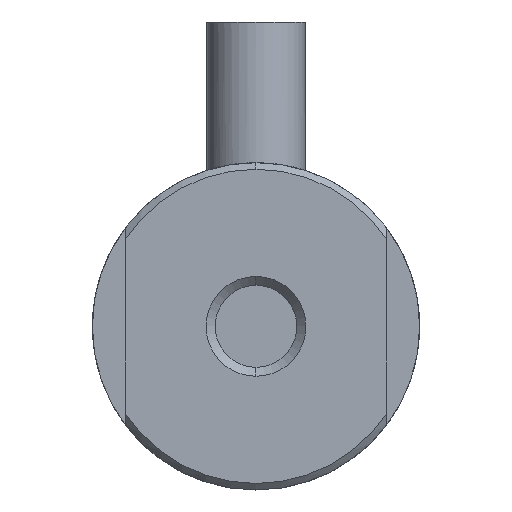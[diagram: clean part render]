
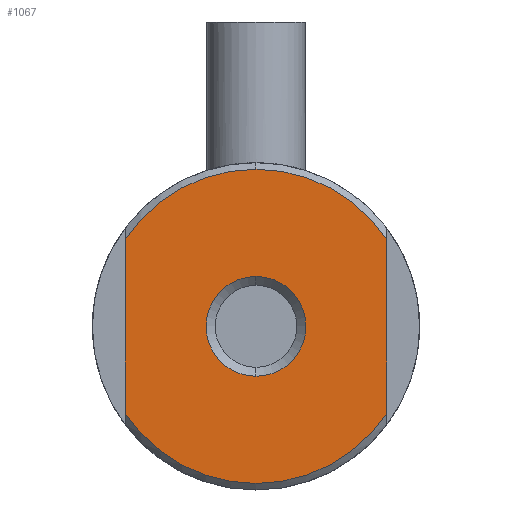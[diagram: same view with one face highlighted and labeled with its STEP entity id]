
A CAD part, front view. The second image highlights one B-rep face of the part: STEP entity #1067.
In plain terms, the highlighted planar face has unit normal (0, -1, 0).
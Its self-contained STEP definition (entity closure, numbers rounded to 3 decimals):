
#7 = EDGE_LOOP ( 'NONE', ( #1491, #1925, #1463, #1442, #135 ) ) ;
#23 = VERTEX_POINT ( 'NONE', #934 ) ;
#54 = CARTESIAN_POINT ( 'NONE',  ( 15.221, -12.067, 22.247 ) ) ;
#99 = EDGE_CURVE ( 'NONE', #1246, #1884, #338, .T. ) ;
#106 = CARTESIAN_POINT ( 'NONE',  ( 11.221, -12.067, 24.9 ) ) ;
#120 = DIRECTION ( 'NONE',  ( 0., 1., 0. ) ) ;
#135 = ORIENTED_EDGE ( 'NONE', *, *, #1857, .T. ) ;
#188 = DIRECTION ( 'NONE',  ( 0., -1., 0. ) ) ;
#296 = CARTESIAN_POINT ( 'NONE',  ( 7.221, -12.067, 27.9 ) ) ;
#315 = AXIS2_PLACEMENT_3D ( 'NONE', #479, #656, #631 ) ;
#327 = CIRCLE ( 'NONE', #371, 4.8 ) ;
#338 = CIRCLE ( 'NONE', #315, 1.525 ) ;
#371 = AXIS2_PLACEMENT_3D ( 'NONE', #384, #1679, #1369 ) ;
#384 = CARTESIAN_POINT ( 'NONE',  ( 11.221, -12.067, 24.9 ) ) ;
#410 = DIRECTION ( 'NONE',  ( 0., -1., 0. ) ) ;
#457 = CIRCLE ( 'NONE', #1638, 4.8 ) ;
#459 = CARTESIAN_POINT ( 'NONE',  ( 7.221, -12.067, 27.553 ) ) ;
#464 = CARTESIAN_POINT ( 'NONE',  ( 11.221, -12.067, 24.9 ) ) ;
#479 = CARTESIAN_POINT ( 'NONE',  ( 11.221, -12.067, 24.9 ) ) ;
#486 = EDGE_CURVE ( 'NONE', #1884, #1246, #811, .T. ) ;
#491 = CIRCLE ( 'NONE', #1846, 4.8 ) ;
#608 = VECTOR ( 'NONE', #1698, 1000. ) ;
#631 = DIRECTION ( 'NONE',  ( 0., 0., -1. ) ) ;
#656 = DIRECTION ( 'NONE',  ( 0., -1., 0. ) ) ;
#679 = CARTESIAN_POINT ( 'NONE',  ( 15.221, -12.067, 27.553 ) ) ;
#682 = FACE_BOUND ( 'NONE', #801, .T. ) ;
#703 = DIRECTION ( 'NONE',  ( 0., 0., 1. ) ) ;
#715 = VERTEX_POINT ( 'NONE', #459 ) ;
#729 = AXIS2_PLACEMENT_3D ( 'NONE', #464, #120, #1064 ) ;
#734 = DIRECTION ( 'NONE',  ( 0., 0., -1. ) ) ;
#749 = EDGE_CURVE ( 'NONE', #23, #715, #1051, .T. ) ;
#766 = VERTEX_POINT ( 'NONE', #679 ) ;
#801 = EDGE_LOOP ( 'NONE', ( #1619, #845 ) ) ;
#811 = CIRCLE ( 'NONE', #1875, 1.525 ) ;
#845 = ORIENTED_EDGE ( 'NONE', *, *, #486, .F. ) ;
#846 = CARTESIAN_POINT ( 'NONE',  ( 11.221, -12.067, 24.9 ) ) ;
#853 = FACE_OUTER_BOUND ( 'NONE', #7, .T. ) ;
#934 = CARTESIAN_POINT ( 'NONE',  ( 7.221, -12.067, 22.247 ) ) ;
#1015 = CARTESIAN_POINT ( 'NONE',  ( 15.221, -12.067, 27.9 ) ) ;
#1051 = LINE ( 'NONE', #296, #608 ) ;
#1064 = DIRECTION ( 'NONE',  ( 0., 0., 1. ) ) ;
#1067 = ADVANCED_FACE ( 'NONE', ( #682, #853 ), #1352, .F. ) ;
#1140 = EDGE_CURVE ( 'NONE', #1188, #715, #491, .T. ) ;
#1172 = VERTEX_POINT ( 'NONE', #54 ) ;
#1188 = VERTEX_POINT ( 'NONE', #1927 ) ;
#1209 = CARTESIAN_POINT ( 'NONE',  ( 11.221, -12.067, 26.425 ) ) ;
#1246 = VERTEX_POINT ( 'NONE', #1800 ) ;
#1283 = DIRECTION ( 'NONE',  ( 0., 0., -1. ) ) ;
#1301 = DIRECTION ( 'NONE',  ( 0., -1., 0. ) ) ;
#1344 = LINE ( 'NONE', #1015, #1608 ) ;
#1352 = PLANE ( 'NONE',  #729 ) ;
#1369 = DIRECTION ( 'NONE',  ( 0., 0., 1. ) ) ;
#1423 = DIRECTION ( 'NONE',  ( 0., 0., 1. ) ) ;
#1442 = ORIENTED_EDGE ( 'NONE', *, *, #749, .F. ) ;
#1463 = ORIENTED_EDGE ( 'NONE', *, *, #1140, .T. ) ;
#1491 = ORIENTED_EDGE ( 'NONE', *, *, #1809, .F. ) ;
#1608 = VECTOR ( 'NONE', #1283, 1000. ) ;
#1619 = ORIENTED_EDGE ( 'NONE', *, *, #99, .F. ) ;
#1638 = AXIS2_PLACEMENT_3D ( 'NONE', #1852, #188, #1423 ) ;
#1640 = EDGE_CURVE ( 'NONE', #766, #1188, #457, .T. ) ;
#1679 = DIRECTION ( 'NONE',  ( 0., -1., 0. ) ) ;
#1698 = DIRECTION ( 'NONE',  ( 0., 0., 1. ) ) ;
#1800 = CARTESIAN_POINT ( 'NONE',  ( 11.221, -12.067, 23.375 ) ) ;
#1809 = EDGE_CURVE ( 'NONE', #766, #1172, #1344, .T. ) ;
#1846 = AXIS2_PLACEMENT_3D ( 'NONE', #846, #1301, #703 ) ;
#1852 = CARTESIAN_POINT ( 'NONE',  ( 11.221, -12.067, 24.9 ) ) ;
#1857 = EDGE_CURVE ( 'NONE', #23, #1172, #327, .T. ) ;
#1875 = AXIS2_PLACEMENT_3D ( 'NONE', #106, #410, #734 ) ;
#1884 = VERTEX_POINT ( 'NONE', #1209 ) ;
#1925 = ORIENTED_EDGE ( 'NONE', *, *, #1640, .T. ) ;
#1927 = CARTESIAN_POINT ( 'NONE',  ( 11.221, -12.067, 29.7 ) ) ;
